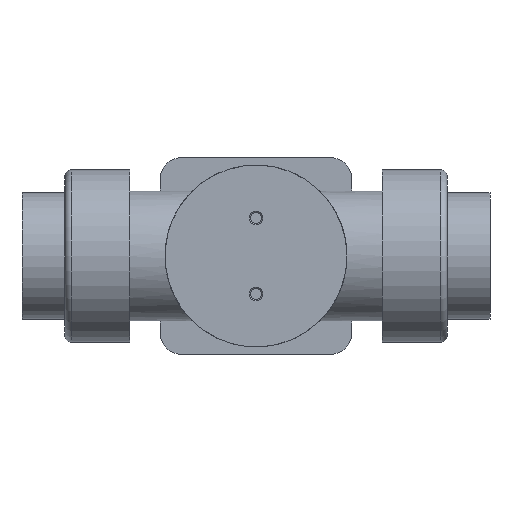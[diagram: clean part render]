
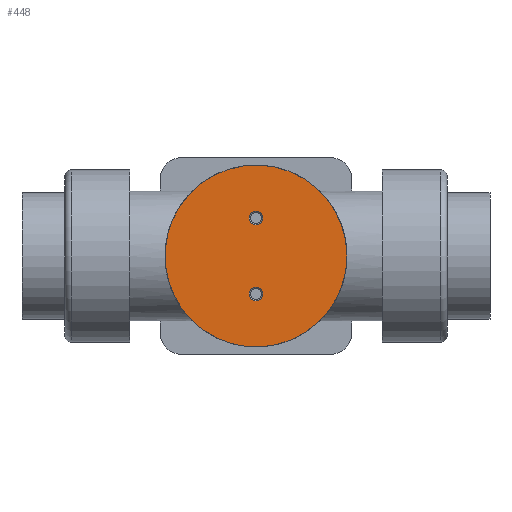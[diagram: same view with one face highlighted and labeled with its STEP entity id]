
A CAD part, front view. The second image highlights one B-rep face of the part: STEP entity #448.
In plain terms, the highlighted planar face has unit normal (0, -1, 0).
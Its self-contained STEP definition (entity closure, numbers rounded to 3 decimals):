
#448 = ADVANCED_FACE( '', ( #939, #940, #941 ), #942, .F. );
#939 = FACE_BOUND( '', #1436, .T. );
#940 = FACE_BOUND( '', #1437, .T. );
#941 = FACE_OUTER_BOUND( '', #1438, .T. );
#942 = PLANE( '', #1439 );
#1436 = EDGE_LOOP( '', ( #2627 ) );
#1437 = EDGE_LOOP( '', ( #2628 ) );
#1438 = EDGE_LOOP( '', ( #2629 ) );
#1439 = AXIS2_PLACEMENT_3D( '', #2630, #2631, #2632 );
#2627 = ORIENTED_EDGE( '', *, *, #3047, .T. );
#2628 = ORIENTED_EDGE( '', *, *, #3149, .F. );
#2629 = ORIENTED_EDGE( '', *, *, #2809, .F. );
#2630 = CARTESIAN_POINT( '', ( 0., -42.5, 0. ) );
#2631 = DIRECTION( '', ( 0., 1., 0. ) );
#2632 = DIRECTION( '', ( 0., 0., 1. ) );
#2809 = EDGE_CURVE( '', #3354, #3354, #3355, .T. );
#3047 = EDGE_CURVE( '', #3710, #3710, #3711, .T. );
#3149 = EDGE_CURVE( '', #3827, #3827, #3828, .T. );
#3354 = VERTEX_POINT( '', #4097 );
#3355 = CIRCLE( '', #4098, 53.25 );
#3710 = VERTEX_POINT( '', #4726 );
#3711 = CIRCLE( '', #4727, 4. );
#3827 = VERTEX_POINT( '', #4873 );
#3828 = CIRCLE( '', #4874, 4. );
#4097 = CARTESIAN_POINT( '', ( 53.25, -42.5, 0. ) );
#4098 = AXIS2_PLACEMENT_3D( '', #5030, #5031, #5032 );
#4726 = CARTESIAN_POINT( '', ( 0., -42.5, 26.25 ) );
#4727 = AXIS2_PLACEMENT_3D( '', #5304, #5305, #5306 );
#4873 = CARTESIAN_POINT( '', ( 0., -42.5, -26.25 ) );
#4874 = AXIS2_PLACEMENT_3D( '', #5382, #5383, #5384 );
#5030 = CARTESIAN_POINT( '', ( 0., -42.5, 0. ) );
#5031 = DIRECTION( '', ( 0., 1., 0. ) );
#5032 = DIRECTION( '', ( 1., 0., 0. ) );
#5304 = CARTESIAN_POINT( '', ( 0., -42.5, 22.25 ) );
#5305 = DIRECTION( '', ( 0., 1., 0. ) );
#5306 = DIRECTION( '', ( 0., 0., 1. ) );
#5382 = CARTESIAN_POINT( '', ( 0., -42.5, -22.25 ) );
#5383 = DIRECTION( '', ( 0., -1., 0. ) );
#5384 = DIRECTION( '', ( 0., 0., -1. ) );
